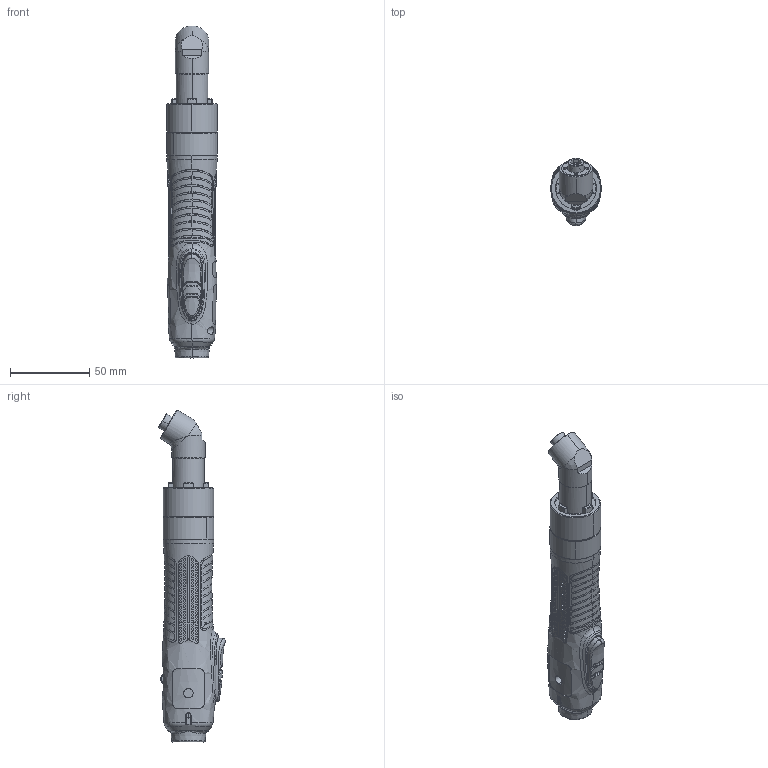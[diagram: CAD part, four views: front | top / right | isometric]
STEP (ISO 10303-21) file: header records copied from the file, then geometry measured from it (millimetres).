
FILE_DESCRIPTION((''),'2;1');
FILE_NAME('MDH22XX-A-C6_3_120DEG_SW0001','2025-04-03T17:27:43',('user'),(''),'CREO PARAMETRIC BY PTC INC, 2021404','CREO PARAMETRIC BY PTC INC, 2021404','');
FILE_SCHEMA(('CONFIG_CONTROL_DESIGN'));
Products named in the file (1): MDH22XX-A-C6_3_120DEG_SW0001
Bounding box: 32.08 x 42.21 x 209.82 mm (x, y, z)
Volume: 55576.9 mm3; surface area: 56268.4 mm2
Topology: 5 solids, 5 shells, 2949 faces, 7377 edges, 4646 vertices
Faces by surface type: plane 1369, cylinder 619, cone 508, bspline 383, torus 54, extrusion 13, sphere 3
Entity records: 136967 total; most frequent: CARTESIAN_POINT 71670, ORIENTED_EDGE 14718, DIRECTION 11550, EDGE_CURVE 7359, VERTEX_POINT 4646, AXIS2_PLACEMENT_3D 4227, EDGE_LOOP 3249, VECTOR 3096
